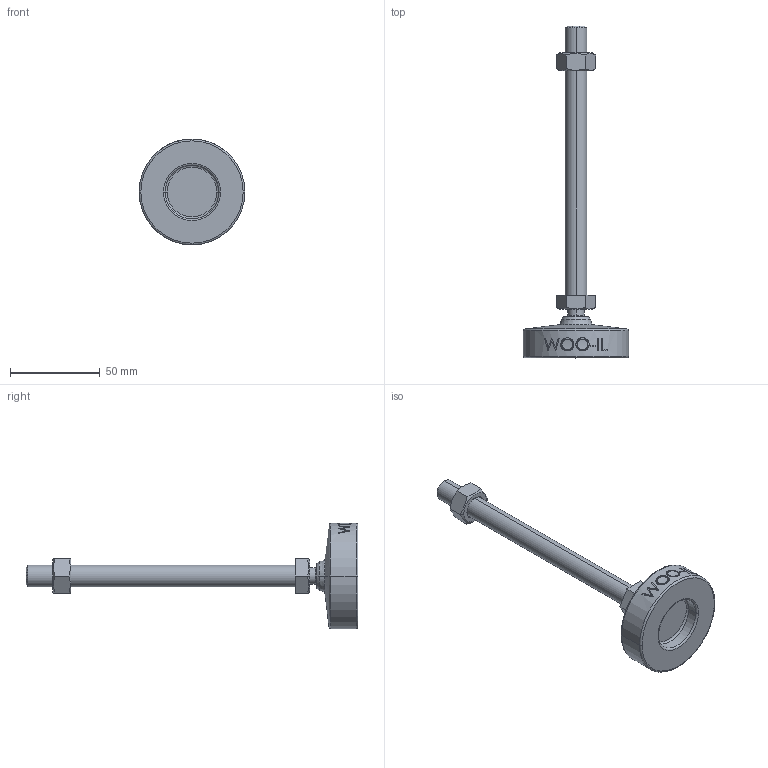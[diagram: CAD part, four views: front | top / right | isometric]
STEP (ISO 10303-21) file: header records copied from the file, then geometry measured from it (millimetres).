
FILE_DESCRIPTION (( 'STEP AP214' ), '1' );
FILE_NAME ('MFN59-M12-150.step', '2021-01-19T06:28:09', ( '' ), ( '' ), 'SwSTEP 2.0', 'SolidWorks 2019', '' );
FILE_SCHEMA (( 'AUTOMOTIVE_DESIGN' ));
Length unit declared in the file: millimetre
Products named in the file (2): MFN59-M12-150
Bounding box: 59 x 185 x 59 mm (x, y, z)
Volume: 64194 mm3; surface area: 17206.1 mm2
Topology: 2 solids, 2 shells, 109 faces, 253 edges, 160 vertices
Faces by surface type: plane 47, cone 18, cylinder 18, bspline 16, torus 8, sphere 2
Entity records: 4619 total; most frequent: CARTESIAN_POINT 2194, ORIENTED_EDGE 506, DIRECTION 461, EDGE_CURVE 253, AXIS2_PLACEMENT_3D 179, VERTEX_POINT 160, EDGE_LOOP 123, FACE_OUTER_BOUND 109
